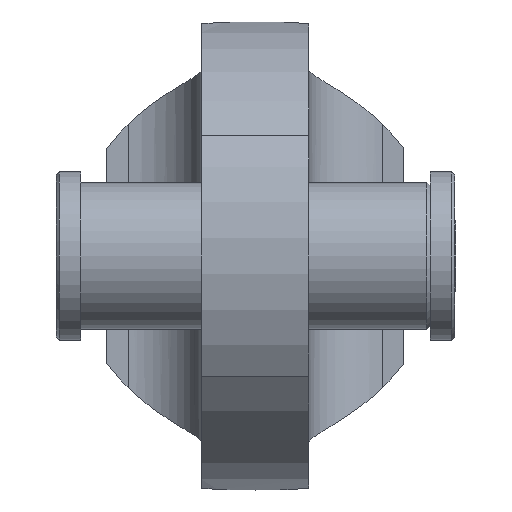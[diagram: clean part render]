
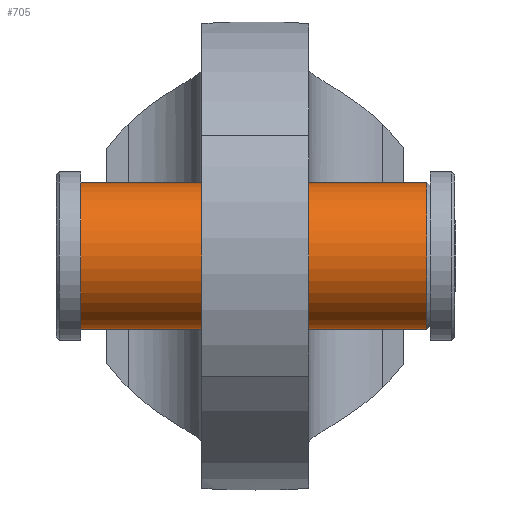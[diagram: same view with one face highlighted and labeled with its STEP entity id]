
A CAD part, left-side view. The second image highlights one B-rep face of the part: STEP entity #705.
In plain terms, the highlighted cylindrical face has radius 24 mm (diameter 48 mm), a full revolution.
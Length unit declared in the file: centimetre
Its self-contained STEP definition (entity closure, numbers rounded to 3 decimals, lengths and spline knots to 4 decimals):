
#89=CYLINDRICAL_SURFACE('',#790,2.4);
#134=FACE_BOUND('',#246,.T.);
#176=FACE_OUTER_BOUND('',#245,.T.);
#245=EDGE_LOOP('',(#556));
#246=EDGE_LOOP('',(#557));
#298=CIRCLE('',#784,2.4);
#301=CIRCLE('',#791,2.4);
#349=VERTEX_POINT('',#1273);
#352=VERTEX_POINT('',#1283);
#422=EDGE_CURVE('',#349,#349,#298,.T.);
#425=EDGE_CURVE('',#352,#352,#301,.T.);
#556=ORIENTED_EDGE('',*,*,#422,.F.);
#557=ORIENTED_EDGE('',*,*,#425,.F.);
#705=ADVANCED_FACE('',(#176,#134),#89,.T.);
#784=AXIS2_PLACEMENT_3D('',#1274,#940,#941);
#790=AXIS2_PLACEMENT_3D('',#1282,#952,#953);
#791=AXIS2_PLACEMENT_3D('',#1284,#954,#955);
#940=DIRECTION('center_axis',(0.,1.,0.));
#941=DIRECTION('ref_axis',(-1.,0.,0.));
#952=DIRECTION('center_axis',(0.,1.,0.));
#953=DIRECTION('ref_axis',(-1.,0.,0.));
#954=DIRECTION('center_axis',(0.,-1.,0.));
#955=DIRECTION('ref_axis',(-1.,0.,0.));
#1273=CARTESIAN_POINT('',(2.4,5.7,0.));
#1274=CARTESIAN_POINT('Origin',(0.,5.7,
0.));
#1282=CARTESIAN_POINT('Origin',(0.,0.,
0.));
#1283=CARTESIAN_POINT('',(2.4,-5.6,0.));
#1284=CARTESIAN_POINT('Origin',(0.,-5.6,
0.));
